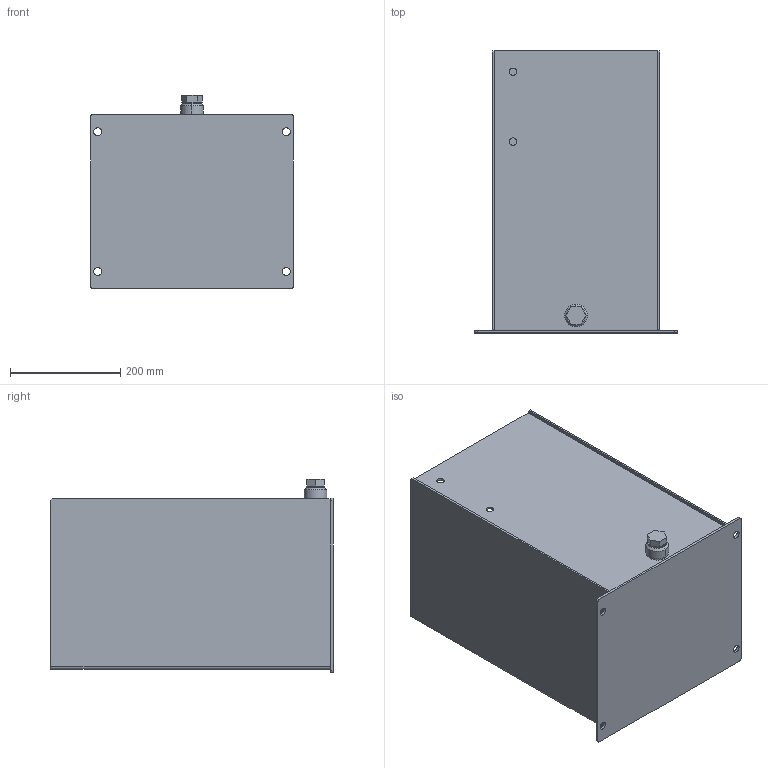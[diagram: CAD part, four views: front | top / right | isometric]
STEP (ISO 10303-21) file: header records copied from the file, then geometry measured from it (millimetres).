
FILE_DESCRIPTION (( 'STEP AP214' ), '1' );
FILE_NAME ('TV-146.STEP', '2020-02-04T12:47:46', ( '' ), ( '' ), 'SwSTEP 2.0', 'SolidWorks 2013', '' );
FILE_SCHEMA (( 'AUTOMOTIVE_DESIGN' ));
Length unit declared in the file: inch
Products named in the file (7): #12 SAE DRAIN; TV-146BDY; TV-146; TV-GST; TV-146FR; TV-146BTM; #12 SAE PLUG
Assembly tree (9 placements, depth 2):
  TV-146
    TV-146BTM
    TV-146FR
    TV-146BDY
    TV-GST  x4
    #12 SAE DRAIN
    #12 SAE PLUG
Bounding box: 368.3 x 512.76 x 352.43 mm (x, y, z)
Volume: 2729054.7 mm3; surface area: 1514454.7 mm2
Topology: 9 solids, 9 shells, 115 faces, 262 edges, 168 vertices
Faces by surface type: plane 71, cylinder 38, cone 6
Entity records: 2990 total; most frequent: DIRECTION 486, CARTESIAN_POINT 443, ORIENTED_EDGE 416, EDGE_CURVE 208, AXIS2_PLACEMENT_3D 175, VECTOR 136, LINE 136, VERTEX_POINT 132
